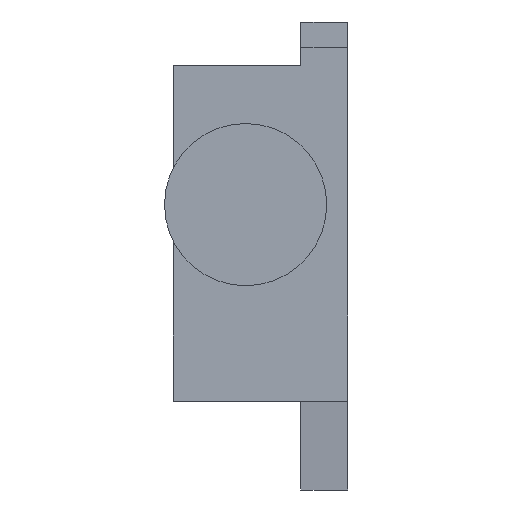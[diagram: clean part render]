
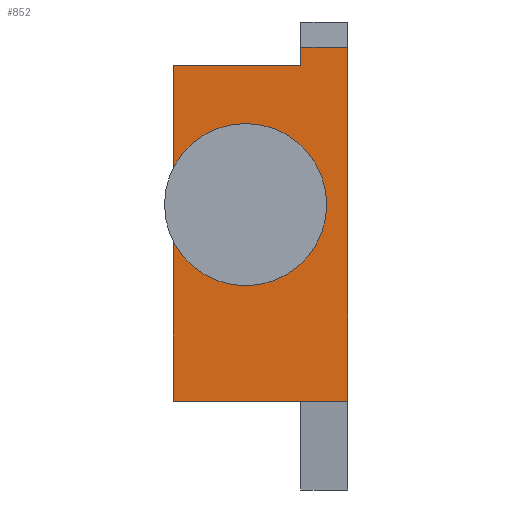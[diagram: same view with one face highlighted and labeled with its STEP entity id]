
A CAD part, left-side view. The second image highlights one B-rep face of the part: STEP entity #852.
In plain terms, the highlighted planar face has unit normal (-1, 0, 0).
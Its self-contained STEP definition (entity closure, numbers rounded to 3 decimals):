
#76 = EDGE_CURVE ( 'NONE', #1408, #1403, #727, .T. ) ;
#126 = EDGE_CURVE ( 'NONE', #1403, #1408, #812, .T. ) ;
#134 = EDGE_CURVE ( 'NONE', #1208, #1196, #815, .T. ) ;
#135 = EDGE_CURVE ( 'NONE', #1200, #1202, #810, .T. ) ;
#136 = EDGE_CURVE ( 'NONE', #1208, #1204, #828, .T. ) ;
#137 = EDGE_CURVE ( 'NONE', #1195, #1200, #823, .T. ) ;
#138 = EDGE_CURVE ( 'NONE', #1195, #1196, #832, .T. ) ;
#139 = EDGE_CURVE ( 'NONE', #1204, #1202, #825, .T. ) ;
#233 = EDGE_LOOP ( 'NONE', ( #589, #590 ) ) ;
#240 = EDGE_LOOP ( 'NONE', ( #583, #584, #585, #586, #587, #588 ) ) ;
#583 = ORIENTED_EDGE ( 'NONE', *, *, #138, .F. ) ;
#584 = ORIENTED_EDGE ( 'NONE', *, *, #137, .T. ) ;
#585 = ORIENTED_EDGE ( 'NONE', *, *, #135, .T. ) ;
#586 = ORIENTED_EDGE ( 'NONE', *, *, #139, .F. ) ;
#587 = ORIENTED_EDGE ( 'NONE', *, *, #136, .F. ) ;
#588 = ORIENTED_EDGE ( 'NONE', *, *, #134, .T. ) ;
#589 = ORIENTED_EDGE ( 'NONE', *, *, #126, .F. ) ;
#590 = ORIENTED_EDGE ( 'NONE', *, *, #76, .F. ) ;
#727 = CIRCLE ( 'NONE', #1770, 5. ) ;
#810 = LINE ( 'NONE', #1499, #826 ) ;
#812 = CIRCLE ( 'NONE', #1788, 5. ) ;
#815 = LINE ( 'NONE', #1501, #824 ) ;
#823 = LINE ( 'NONE', #1497, #830 ) ;
#824 = VECTOR ( 'NONE', #1498, 1000. ) ;
#825 = LINE ( 'NONE', #1493, #834 ) ;
#826 = VECTOR ( 'NONE', #1496, 1000. ) ;
#828 = LINE ( 'NONE', #1495, #829 ) ;
#829 = VECTOR ( 'NONE', #1494, 1000. ) ;
#830 = VECTOR ( 'NONE', #1492, 1000. ) ;
#832 = LINE ( 'NONE', #1491, #833 ) ;
#833 = VECTOR ( 'NONE', #1490, 1000. ) ;
#834 = VECTOR ( 'NONE', #1488, 1000. ) ;
#852 = ADVANCED_FACE ( 'NONE', ( #1971, #1968 ), #1281, .F. ) ;
#991 = CARTESIAN_POINT ( 'NONE',  ( -949., 12., -10.4 ) ) ;
#992 = CARTESIAN_POINT ( 'NONE',  ( -949., 12., -0.4 ) ) ;
#1074 = CARTESIAN_POINT ( 'NONE',  ( -949., 5.5, 13.1 ) ) ;
#1075 = CARTESIAN_POINT ( 'NONE',  ( -949., 0., 13.1 ) ) ;
#1076 = CARTESIAN_POINT ( 'NONE',  ( -949., 0., -28.541 ) ) ;
#1077 = CARTESIAN_POINT ( 'NONE',  ( -949., 20.5, -28.541 ) ) ;
#1079 = CARTESIAN_POINT ( 'NONE',  ( -949., 5.5, 11. ) ) ;
#1080 = CARTESIAN_POINT ( 'NONE',  ( -949., 20.5, 11. ) ) ;
#1195 = VERTEX_POINT ( 'NONE', #1080 ) ;
#1196 = VERTEX_POINT ( 'NONE', #1079 ) ;
#1200 = VERTEX_POINT ( 'NONE', #1077 ) ;
#1202 = VERTEX_POINT ( 'NONE', #1076 ) ;
#1204 = VERTEX_POINT ( 'NONE', #1075 ) ;
#1208 = VERTEX_POINT ( 'NONE', #1074 ) ;
#1278 = DIRECTION ( 'NONE',  ( 0., 0., 1. ) ) ;
#1279 = DIRECTION ( 'NONE',  ( 1., 0., 0. ) ) ;
#1281 = PLANE ( 'NONE',  #1810 ) ;
#1298 = CARTESIAN_POINT ( 'NONE',  ( -949., 20.5, -28.541 ) ) ;
#1403 = VERTEX_POINT ( 'NONE', #992 ) ;
#1408 = VERTEX_POINT ( 'NONE', #991 ) ;
#1488 = DIRECTION ( 'NONE',  ( 0., 0., -1. ) ) ;
#1490 = DIRECTION ( 'NONE',  ( 0., -1., 0. ) ) ;
#1491 = CARTESIAN_POINT ( 'NONE',  ( -949., 20.5, 11. ) ) ;
#1492 = DIRECTION ( 'NONE',  ( 0., 0., -1. ) ) ;
#1493 = CARTESIAN_POINT ( 'NONE',  ( -949., 0., -28.541 ) ) ;
#1494 = DIRECTION ( 'NONE',  ( 0., -1., 0. ) ) ;
#1495 = CARTESIAN_POINT ( 'NONE',  ( -949., 5.5, 13.1 ) ) ;
#1496 = DIRECTION ( 'NONE',  ( 0., -1., 0. ) ) ;
#1497 = CARTESIAN_POINT ( 'NONE',  ( -949., 20.5, -28.541 ) ) ;
#1498 = DIRECTION ( 'NONE',  ( 0., 0., -1. ) ) ;
#1499 = CARTESIAN_POINT ( 'NONE',  ( -949., 20.5, -28.541 ) ) ;
#1501 = CARTESIAN_POINT ( 'NONE',  ( -949., 5.5, -28.541 ) ) ;
#1516 = DIRECTION ( 'NONE',  ( 0., 0., 1. ) ) ;
#1517 = DIRECTION ( 'NONE',  ( -1., 0., 0. ) ) ;
#1518 = CARTESIAN_POINT ( 'NONE',  ( -949., 12., -5.4 ) ) ;
#1631 = DIRECTION ( 'NONE',  ( 0., 0., 1. ) ) ;
#1632 = DIRECTION ( 'NONE',  ( -1., 0., 0. ) ) ;
#1633 = CARTESIAN_POINT ( 'NONE',  ( -949., 12., -5.4 ) ) ;
#1770 = AXIS2_PLACEMENT_3D ( 'NONE', #1633, #1632, #1631 ) ;
#1788 = AXIS2_PLACEMENT_3D ( 'NONE', #1518, #1517, #1516 ) ;
#1810 = AXIS2_PLACEMENT_3D ( 'NONE', #1298, #1279, #1278 ) ;
#1968 = FACE_BOUND ( 'NONE', #233, .T. ) ;
#1971 = FACE_OUTER_BOUND ( 'NONE', #240, .T. ) ;
